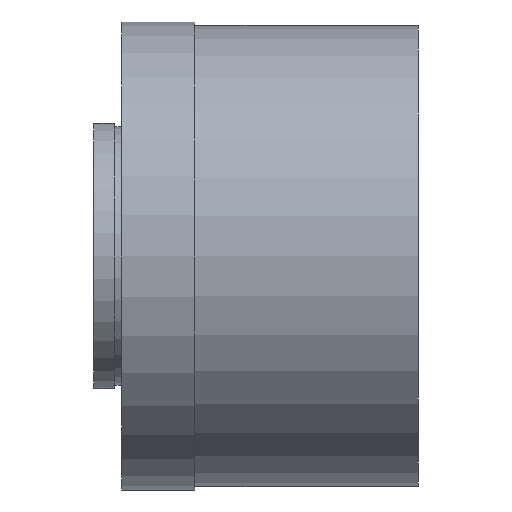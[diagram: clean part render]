
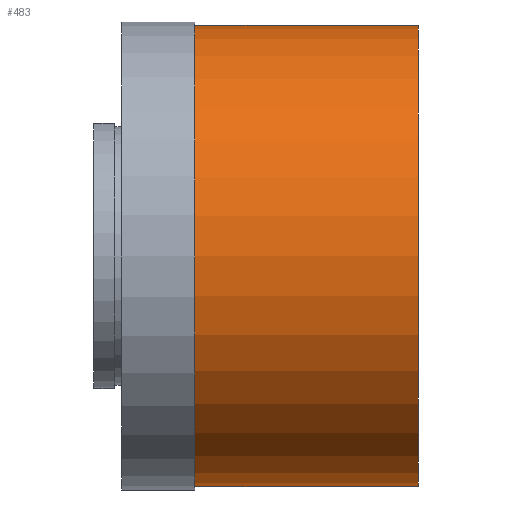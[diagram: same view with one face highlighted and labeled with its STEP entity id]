
A CAD part, left-side view. The second image highlights one B-rep face of the part: STEP entity #483.
In plain terms, the highlighted cylindrical face has radius 33 mm (diameter 66 mm), a partial arc.
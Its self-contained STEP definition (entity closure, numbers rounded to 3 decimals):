
#3 = FACE_OUTER_BOUND ( 'NONE', #884, .T. ) ;
#22 = DIRECTION ( 'NONE',  ( 0., -1., 0. ) ) ;
#52 = DIRECTION ( 'NONE',  ( 0., -1., 0. ) ) ;
#76 = VECTOR ( 'NONE', #52, 1000. ) ;
#86 = VECTOR ( 'NONE', #421, 1000. ) ;
#90 = CARTESIAN_POINT ( 'NONE',  ( 0., 0., 0. ) ) ;
#93 = EDGE_CURVE ( 'NONE', #843, #120, #786, .T. ) ;
#117 = ORIENTED_EDGE ( 'NONE', *, *, #93, .F. ) ;
#118 = CARTESIAN_POINT ( 'NONE',  ( 0., 0., 33. ) ) ;
#120 = VERTEX_POINT ( 'NONE', #585 ) ;
#125 = CIRCLE ( 'NONE', #378, 33. ) ;
#128 = CARTESIAN_POINT ( 'NONE',  ( 0., 32., 33. ) ) ;
#129 = CYLINDRICAL_SURFACE ( 'NONE', #506, 33. ) ;
#155 = DIRECTION ( 'NONE',  ( 0., 0., -1. ) ) ;
#165 = DIRECTION ( 'NONE',  ( 0., -1., 0. ) ) ;
#255 = CARTESIAN_POINT ( 'NONE',  ( 0., 0., -33. ) ) ;
#282 = EDGE_CURVE ( 'NONE', #606, #691, #710, .T. ) ;
#298 = CARTESIAN_POINT ( 'NONE',  ( 0., 32., -33. ) ) ;
#357 = DIRECTION ( 'NONE',  ( 0., 0., -1. ) ) ;
#378 = AXIS2_PLACEMENT_3D ( 'NONE', #768, #774, #357 ) ;
#421 = DIRECTION ( 'NONE',  ( 0., -1., 0. ) ) ;
#427 = DIRECTION ( 'NONE',  ( 0., 0., -1. ) ) ;
#458 = EDGE_CURVE ( 'NONE', #120, #691, #125, .T. ) ;
#481 = EDGE_CURVE ( 'NONE', #843, #606, #626, .T. ) ;
#483 = ADVANCED_FACE ( 'NONE', ( #3 ), #129, .T. ) ;
#506 = AXIS2_PLACEMENT_3D ( 'NONE', #90, #165, #155 ) ;
#570 = AXIS2_PLACEMENT_3D ( 'NONE', #844, #22, #427 ) ;
#585 = CARTESIAN_POINT ( 'NONE',  ( 0., 0., 33. ) ) ;
#606 = VERTEX_POINT ( 'NONE', #298 ) ;
#617 = ORIENTED_EDGE ( 'NONE', *, *, #282, .T. ) ;
#626 = CIRCLE ( 'NONE', #570, 33. ) ;
#649 = ORIENTED_EDGE ( 'NONE', *, *, #458, .F. ) ;
#663 = ORIENTED_EDGE ( 'NONE', *, *, #481, .T. ) ;
#691 = VERTEX_POINT ( 'NONE', #255 ) ;
#710 = LINE ( 'NONE', #835, #86 ) ;
#768 = CARTESIAN_POINT ( 'NONE',  ( 0., 0., 0. ) ) ;
#774 = DIRECTION ( 'NONE',  ( 0., -1., 0. ) ) ;
#786 = LINE ( 'NONE', #118, #76 ) ;
#835 = CARTESIAN_POINT ( 'NONE',  ( 0., 0., -33. ) ) ;
#843 = VERTEX_POINT ( 'NONE', #128 ) ;
#844 = CARTESIAN_POINT ( 'NONE',  ( 0., 32., 0. ) ) ;
#884 = EDGE_LOOP ( 'NONE', ( #117, #663, #617, #649 ) ) ;
